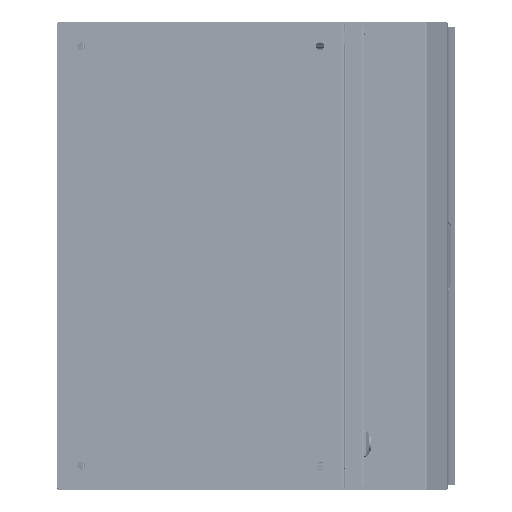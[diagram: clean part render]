
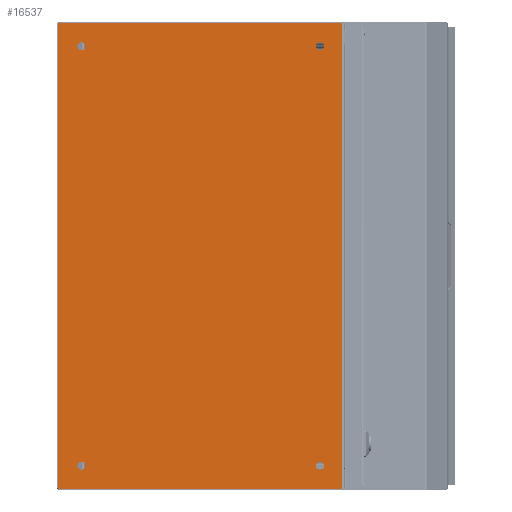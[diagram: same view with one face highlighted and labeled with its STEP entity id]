
A CAD part, left-side view. The second image highlights one B-rep face of the part: STEP entity #16537.
In plain terms, the highlighted planar face has unit normal (-1, 0, 0) as drawn and (0, -1, 0) by its records, which use the part's own axes.
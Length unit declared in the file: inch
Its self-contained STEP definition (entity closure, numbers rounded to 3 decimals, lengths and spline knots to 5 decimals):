
#14802=DIRECTION('',(1.,0.,0.));
#14803=VECTOR('',#14802,25.1);
#14804=CARTESIAN_POINT('',(-12.55,-0.075,7.619));
#14805=LINE('',#14804,#14803);
#15276=CARTESIAN_POINT('',(11.3125,-0.075,-6.4235));
#15277=DIRECTION('',(0.,-1.,0.));
#15278=DIRECTION('',(-1.,0.,0.));
#15279=AXIS2_PLACEMENT_3D('',#15276,#15277,#15278);
#15284=CARTESIAN_POINT('',(11.3125,-0.075,-6.4235));
#15285=DIRECTION('',(0.,-1.,0.));
#15286=DIRECTION('',(1.,0.,0.));
#15287=AXIS2_PLACEMENT_3D('',#15284,#15285,#15286);
#15292=CARTESIAN_POINT('',(11.3125,-0.075,6.4515));
#15293=DIRECTION('',(0.,-1.,0.));
#15294=DIRECTION('',(-1.,0.,0.));
#15295=AXIS2_PLACEMENT_3D('',#15292,#15293,#15294);
#15300=CARTESIAN_POINT('',(11.3125,-0.075,6.4515));
#15301=DIRECTION('',(0.,-1.,0.));
#15302=DIRECTION('',(1.,0.,0.));
#15303=AXIS2_PLACEMENT_3D('',#15300,#15301,#15302);
#15308=CARTESIAN_POINT('',(-11.3125,-0.075,-6.4235));
#15309=DIRECTION('',(0.,-1.,0.));
#15310=DIRECTION('',(-1.,0.,0.));
#15311=AXIS2_PLACEMENT_3D('',#15308,#15309,#15310);
#15316=CARTESIAN_POINT('',(-11.3125,-0.075,-6.4235));
#15317=DIRECTION('',(0.,-1.,0.));
#15318=DIRECTION('',(1.,0.,0.));
#15319=AXIS2_PLACEMENT_3D('',#15316,#15317,#15318);
#15324=CARTESIAN_POINT('',(-11.3125,-0.075,6.4515));
#15325=DIRECTION('',(0.,-1.,0.));
#15326=DIRECTION('',(-1.,0.,0.));
#15327=AXIS2_PLACEMENT_3D('',#15324,#15325,#15326);
#15332=CARTESIAN_POINT('',(-11.3125,-0.075,6.4515));
#15333=DIRECTION('',(0.,-1.,0.));
#15334=DIRECTION('',(1.,0.,0.));
#15335=AXIS2_PLACEMENT_3D('',#15332,#15333,#15334);
#15340=CARTESIAN_POINT('',(-12.49,-0.075,-7.6385));
#15341=DIRECTION('',(0.,-1.,0.));
#15342=DIRECTION('',(-1.,0.,0.));
#15343=AXIS2_PLACEMENT_3D('',#15340,#15341,#15342);
#15348=CARTESIAN_POINT('',(12.49,-0.075,-7.6385));
#15349=DIRECTION('',(0.,-1.,0.));
#15350=DIRECTION('',(0.,0.,-1.));
#15351=AXIS2_PLACEMENT_3D('',#15348,#15349,#15350);
#15356=DIRECTION('',(1.,0.,0.));
#15357=VECTOR('',#15356,24.98);
#15358=CARTESIAN_POINT('',(-12.49,-0.075,-7.6985));
#15359=LINE('',#15358,#15357);
#15527=DIRECTION('',(0.,0.,-1.));
#15528=VECTOR('',#15527,15.2575);
#15529=CARTESIAN_POINT('',(-12.55,-0.075,7.619));
#15530=LINE('',#15529,#15528);
#15555=DIRECTION('',(0.,0.,1.));
#15556=VECTOR('',#15555,15.2575);
#15557=CARTESIAN_POINT('',(12.55,-0.075,-7.6385));
#15558=LINE('',#15557,#15556);
#15577=CARTESIAN_POINT('',(-12.55,-0.075,7.619));
#15579=VERTEX_POINT('',#15577);
#15581=CARTESIAN_POINT('',(12.55,-0.075,7.619));
#15583=VERTEX_POINT('',#15581);
#15621=CARTESIAN_POINT('',(-11.53125,-0.075,6.4515));
#15622=CARTESIAN_POINT('',(-11.09375,-0.075,6.4515));
#15623=VERTEX_POINT('',#15621);
#15624=VERTEX_POINT('',#15622);
#15625=CARTESIAN_POINT('',(-11.53125,-0.075,-6.4235));
#15626=CARTESIAN_POINT('',(-11.09375,-0.075,-6.4235));
#15627=VERTEX_POINT('',#15625);
#15628=VERTEX_POINT('',#15626);
#15629=CARTESIAN_POINT('',(11.09375,-0.075,6.4515));
#15630=CARTESIAN_POINT('',(11.53125,-0.075,6.4515));
#15631=VERTEX_POINT('',#15629);
#15632=VERTEX_POINT('',#15630);
#15633=CARTESIAN_POINT('',(11.09375,-0.075,-6.4235));
#15634=CARTESIAN_POINT('',(11.53125,-0.075,-6.4235));
#15635=VERTEX_POINT('',#15633);
#15636=VERTEX_POINT('',#15634);
#15641=CARTESIAN_POINT('',(-12.55,-0.075,-7.6385));
#15642=VERTEX_POINT('',#15641);
#15643=CARTESIAN_POINT('',(-12.49,-0.075,-7.6985));
#15644=VERTEX_POINT('',#15643);
#15649=CARTESIAN_POINT('',(12.49,-0.075,-7.6985));
#15650=VERTEX_POINT('',#15649);
#15651=CARTESIAN_POINT('',(12.55,-0.075,-7.6385));
#15652=VERTEX_POINT('',#15651);
#16495=CARTESIAN_POINT('',(-12.55,-0.075,-7.619));
#16496=DIRECTION('',(0.,1.,0.));
#16497=DIRECTION('',(0.,0.,1.));
#16498=AXIS2_PLACEMENT_3D('',#16495,#16496,#16497);
#16499=PLANE('',#16498);
#16501=ORIENTED_EDGE('',*,*,#16500,.F.);
#16503=ORIENTED_EDGE('',*,*,#16502,.F.);
#16504=ORIENTED_EDGE('',*,*,#15899,.T.);
#16506=ORIENTED_EDGE('',*,*,#16505,.F.);
#16508=ORIENTED_EDGE('',*,*,#16507,.F.);
#16510=ORIENTED_EDGE('',*,*,#16509,.F.);
#16511=EDGE_LOOP('',(#16501,#16503,#16504,#16506,#16508,#16510));
#16512=FACE_OUTER_BOUND('',#16511,.F.);
#16514=ORIENTED_EDGE('',*,*,#16513,.T.);
#16516=ORIENTED_EDGE('',*,*,#16515,.T.);
#16517=EDGE_LOOP('',(#16514,#16516));
#16518=FACE_BOUND('',#16517,.F.);
#16520=ORIENTED_EDGE('',*,*,#16519,.T.);
#16522=ORIENTED_EDGE('',*,*,#16521,.T.);
#16523=EDGE_LOOP('',(#16520,#16522));
#16524=FACE_BOUND('',#16523,.F.);
#16526=ORIENTED_EDGE('',*,*,#16525,.T.);
#16528=ORIENTED_EDGE('',*,*,#16527,.T.);
#16529=EDGE_LOOP('',(#16526,#16528));
#16530=FACE_BOUND('',#16529,.F.);
#16532=ORIENTED_EDGE('',*,*,#16531,.T.);
#16534=ORIENTED_EDGE('',*,*,#16533,.T.);
#16535=EDGE_LOOP('',(#16532,#16534));
#16536=FACE_BOUND('',#16535,.F.);
#15280=CIRCLE('',#15279,0.21875);
#15288=CIRCLE('',#15287,0.21875);
#15296=CIRCLE('',#15295,0.21875);
#15304=CIRCLE('',#15303,0.21875);
#15312=CIRCLE('',#15311,0.21875);
#15320=CIRCLE('',#15319,0.21875);
#15328=CIRCLE('',#15327,0.21875);
#15336=CIRCLE('',#15335,0.21875);
#15344=CIRCLE('',#15343,0.06);
#15352=CIRCLE('',#15351,0.06);
#15899=EDGE_CURVE('',#15579,#15583,#14805,.T.);
#16500=EDGE_CURVE('',#15642,#15644,#15344,.T.);
#16502=EDGE_CURVE('',#15579,#15642,#15530,.T.);
#16505=EDGE_CURVE('',#15652,#15583,#15558,.T.);
#16507=EDGE_CURVE('',#15650,#15652,#15352,.T.);
#16509=EDGE_CURVE('',#15644,#15650,#15359,.T.);
#16513=EDGE_CURVE('',#15631,#15632,#15296,.T.);
#16515=EDGE_CURVE('',#15632,#15631,#15304,.T.);
#16519=EDGE_CURVE('',#15627,#15628,#15312,.T.);
#16521=EDGE_CURVE('',#15628,#15627,#15320,.T.);
#16525=EDGE_CURVE('',#15623,#15624,#15328,.T.);
#16527=EDGE_CURVE('',#15624,#15623,#15336,.T.);
#16531=EDGE_CURVE('',#15635,#15636,#15280,.T.);
#16533=EDGE_CURVE('',#15636,#15635,#15288,.T.);
#16537=ADVANCED_FACE('',(#16512,#16518,#16524,#16530,#16536),#16499,.F.);
